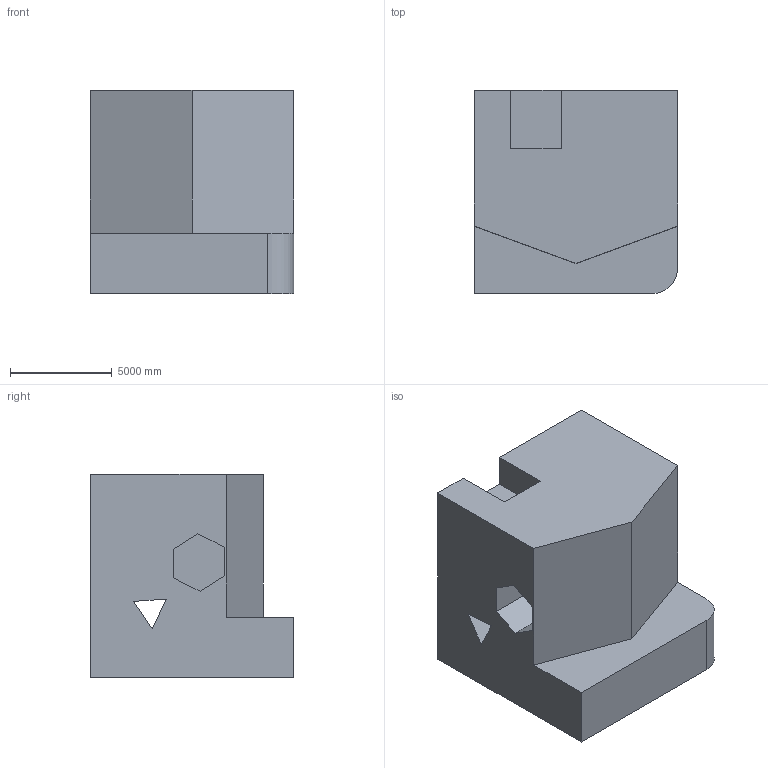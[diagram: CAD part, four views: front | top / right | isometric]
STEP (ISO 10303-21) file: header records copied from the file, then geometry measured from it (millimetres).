
FILE_DESCRIPTION (( 'STEP AP203' ), '1' );
FILE_NAME ('140.STEP', '2022-09-06T13:22:50', ( 'user' ), ( '' ), 'SwSTEP 2.0', 'SolidWorks 2021', '' );
FILE_SCHEMA (( 'CONFIG_CONTROL_DESIGN' ));
Length unit declared in the file: centimetre
Products named in the file (1): 140
Bounding box: 10000 x 10000 x 10000 mm (x, y, z)
Volume: 783455523452.9 mm3; surface area: 650041794 mm2
Topology: 1 solids, 1 shells, 24 faces, 63 edges, 42 vertices
Faces by surface type: plane 23, cylinder 1
Entity records: 810 total; most frequent: CARTESIAN_POINT 130, ORIENTED_EDGE 126, DIRECTION 115, EDGE_CURVE 63, LINE 61, VECTOR 61, VERTEX_POINT 42, EDGE_LOOP 27
